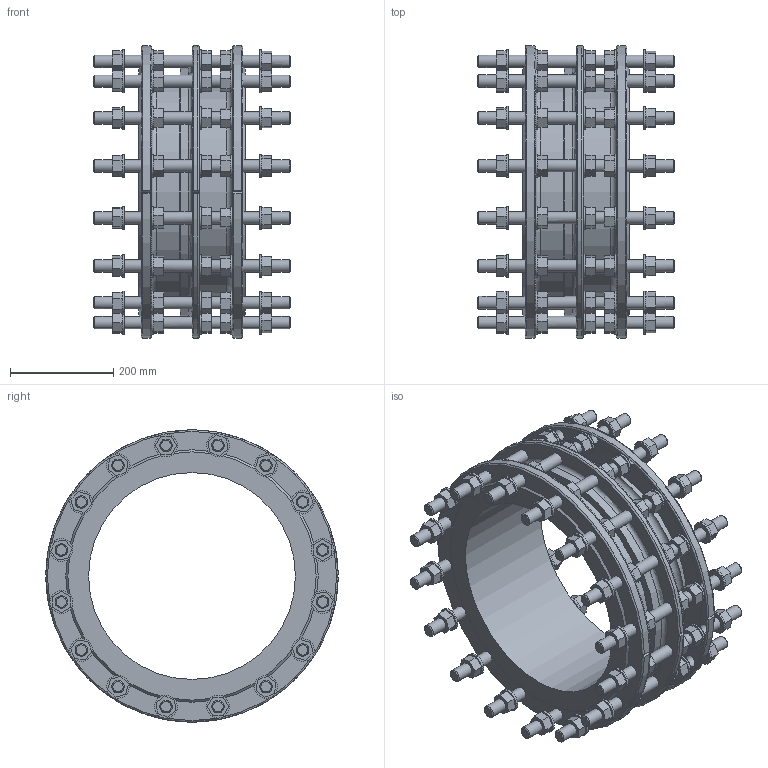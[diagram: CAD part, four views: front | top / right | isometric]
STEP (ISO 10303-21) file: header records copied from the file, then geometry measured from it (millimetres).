
FILE_DESCRIPTION (( 'STEP AP203' ), '1' );
FILE_NAME ('O_265_911_DN400_0XXXXX01_L=205_REV01.step', '2024-12-12T08:03:09', ( '' ), ( '' ), 'SwSTEP 2.0', 'SolidWorks 2022', '' );
FILE_SCHEMA (( 'CONFIG_CONTROL_DESIGN' ));
Length unit declared in the file: millimetre
Products named in the file (1): O_265_911_DN400_0XXXXX01_L=205_REV01
Bounding box: 380 x 564.97 x 565 mm (x, y, z)
Volume: 14863273.8 mm3; surface area: 1712468 mm2
Topology: 1 solids, 1 shells, 1002 faces, 2428 edges, 1599 vertices
Faces by surface type: plane 764, cylinder 187, cone 35, torus 16
Full cylindrical faces by diameter (mm): 24 x96, 44 x80, 400 x1, 416 x1, 448 x1
Entity records: 27848 total; most frequent: CARTESIAN_POINT 5368, DIRECTION 4553, ORIENTED_EDGE 4192, EDGE_CURVE 2096, LINE 1565, VECTOR 1565, AXIS2_PLACEMENT_3D 1494, VERTEX_POINT 1485
